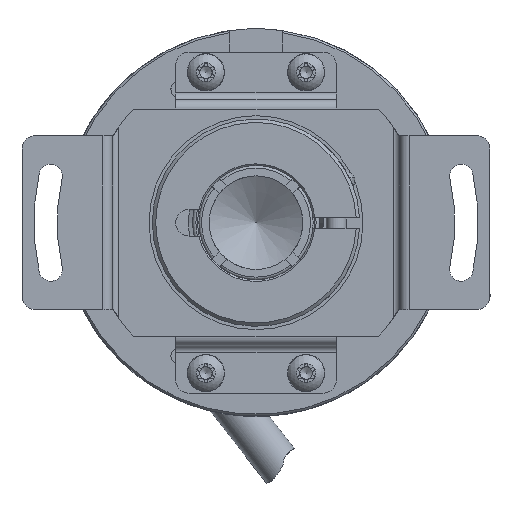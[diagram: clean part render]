
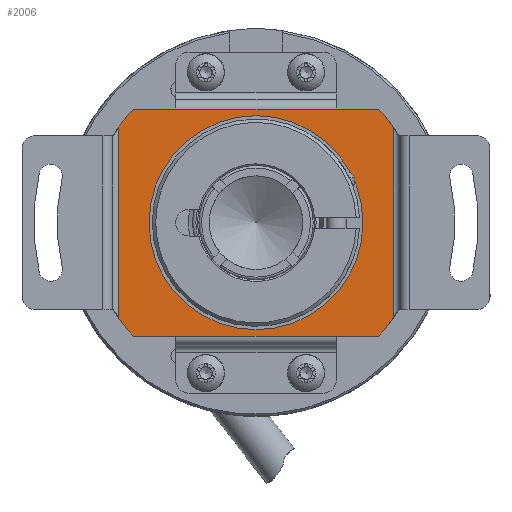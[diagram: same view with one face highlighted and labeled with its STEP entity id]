
A CAD part, left-side view. The second image highlights one B-rep face of the part: STEP entity #2006.
In plain terms, the highlighted planar face has unit normal (-1, 0, 0).
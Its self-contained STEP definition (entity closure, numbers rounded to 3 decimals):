
#2006 = ADVANCED_FACE( '', ( #4288, #4289 ), #4290, .F. );
#4288 = FACE_OUTER_BOUND( '', #32326, .T. );
#4289 = FACE_BOUND( '', #32327, .T. );
#4290 = PLANE( '', #32328 );
#32326 = EDGE_LOOP( '', ( #43182, #43183, #43184, #43185, #43186, #43187, #43188, #43189, #43190, #43191, #43192, #43193 ) );
#32327 = EDGE_LOOP( '', ( #43194 ) );
#32328 = AXIS2_PLACEMENT_3D( '', #43195, #43196, #43197 );
#43182 = ORIENTED_EDGE( '', *, *, #45977, .F. );
#43183 = ORIENTED_EDGE( '', *, *, #45730, .F. );
#43184 = ORIENTED_EDGE( '', *, *, #45679, .F. );
#43185 = ORIENTED_EDGE( '', *, *, #45803, .F. );
#43186 = ORIENTED_EDGE( '', *, *, #45366, .F. );
#43187 = ORIENTED_EDGE( '', *, *, #46525, .F. );
#43188 = ORIENTED_EDGE( '', *, *, #45833, .F. );
#43189 = ORIENTED_EDGE( '', *, *, #45422, .F. );
#43190 = ORIENTED_EDGE( '', *, *, #44458, .F. );
#43191 = ORIENTED_EDGE( '', *, *, #46373, .F. );
#43192 = ORIENTED_EDGE( '', *, *, #45308, .F. );
#43193 = ORIENTED_EDGE( '', *, *, #45638, .F. );
#43194 = ORIENTED_EDGE( '', *, *, #45651, .F. );
#43195 = CARTESIAN_POINT( '', ( 9.6, 0., 17. ) );
#43196 = DIRECTION( '', ( 1., 0., 0. ) );
#43197 = DIRECTION( '', ( 0., 0., 1. ) );
#44458 = EDGE_CURVE( '', #46976, #46979, #46980, .T. );
#45308 = EDGE_CURVE( '', #48386, #48333, #48388, .T. );
#45366 = EDGE_CURVE( '', #48477, #48473, #48479, .T. );
#45422 = EDGE_CURVE( '', #46979, #48558, #48559, .T. );
#45638 = EDGE_CURVE( '', #48888, #48386, #48890, .T. );
#45651 = EDGE_CURVE( '', #48903, #48903, #48904, .T. );
#45679 = EDGE_CURVE( '', #48635, #48938, #48939, .T. );
#45730 = EDGE_CURVE( '', #48938, #49015, #49016, .T. );
#45803 = EDGE_CURVE( '', #48473, #48635, #49117, .T. );
#45833 = EDGE_CURVE( '', #48558, #49155, #49159, .T. );
#45977 = EDGE_CURVE( '', #49015, #48888, #49346, .T. );
#46373 = EDGE_CURVE( '', #48333, #46976, #49828, .T. );
#46525 = EDGE_CURVE( '', #49155, #48477, #49992, .T. );
#46976 = VERTEX_POINT( '', #50693 );
#46979 = VERTEX_POINT( '', #50697 );
#46980 = LINE( '', #50698, #50699 );
#48333 = VERTEX_POINT( '', #55789 );
#48386 = VERTEX_POINT( '', #55969 );
#48388 = LINE( '', #55972, #55973 );
#48473 = VERTEX_POINT( '', #56301 );
#48477 = VERTEX_POINT( '', #56307 );
#48479 = LINE( '', #56310, #56311 );
#48558 = VERTEX_POINT( '', #56518 );
#48559 = CIRCLE( '', #56519, 25. );
#48635 = VERTEX_POINT( '', #56663 );
#48888 = VERTEX_POINT( '', #57434 );
#48890 = CIRCLE( '', #57445, 25. );
#48903 = VERTEX_POINT( '', #57493 );
#48904 = CIRCLE( '', #57494, 16. );
#48938 = VERTEX_POINT( '', #57546 );
#48939 = LINE( '', #57547, #57548 );
#49015 = VERTEX_POINT( '', #57801 );
#49016 = CIRCLE( '', #57802, 25. );
#49117 = LINE( '', #58103, #58104 );
#49155 = VERTEX_POINT( '', #58236 );
#49159 = LINE( '', #58253, #58254 );
#49346 = LINE( '', #58775, #58776 );
#49828 = LINE( '', #60349, #60350 );
#49992 = CIRCLE( '', #60838, 25. );
#50693 = CARTESIAN_POINT( '', ( 9.6, 12., -17. ) );
#50697 = CARTESIAN_POINT( '', ( 9.6, 18.33, -17. ) );
#50698 = CARTESIAN_POINT( '', ( 9.6, -18.33, -17. ) );
#50699 = VECTOR( '', #61531, 1000. );
#55789 = CARTESIAN_POINT( '', ( 9.6, -12., -17. ) );
#55969 = CARTESIAN_POINT( '', ( 9.6, -18.33, -17. ) );
#55972 = CARTESIAN_POINT( '', ( 9.6, -18.33, -17. ) );
#55973 = VECTOR( '', #62593, 1000. );
#56301 = CARTESIAN_POINT( '', ( 9.6, 12., 17. ) );
#56307 = CARTESIAN_POINT( '', ( 9.6, 18.33, 17. ) );
#56310 = CARTESIAN_POINT( '', ( 9.6, 18.33, 17. ) );
#56311 = VECTOR( '', #62663, 1000. );
#56518 = CARTESIAN_POINT( '', ( 9.6, 20.5, -14.309 ) );
#56519 = AXIS2_PLACEMENT_3D( '', #62728, #62729, #62730 );
#56663 = CARTESIAN_POINT( '', ( 9.6, -12., 17. ) );
#57434 = CARTESIAN_POINT( '', ( 9.6, -20.5, -14.309 ) );
#57445 = AXIS2_PLACEMENT_3D( '', #62996, #62997, #62998 );
#57493 = CARTESIAN_POINT( '', ( 9.6, 16., 0. ) );
#57494 = AXIS2_PLACEMENT_3D( '', #63014, #63015, #63016 );
#57546 = CARTESIAN_POINT( '', ( 9.6, -18.33, 17. ) );
#57547 = CARTESIAN_POINT( '', ( 9.6, 18.33, 17. ) );
#57548 = VECTOR( '', #63049, 1000. );
#57801 = CARTESIAN_POINT( '', ( 9.6, -20.5, 14.309 ) );
#57802 = AXIS2_PLACEMENT_3D( '', #63103, #63104, #63105 );
#58103 = CARTESIAN_POINT( '', ( 9.6, 0., 17. ) );
#58104 = VECTOR( '', #63173, 1000. );
#58236 = CARTESIAN_POINT( '', ( 9.6, 20.5, 14.309 ) );
#58253 = CARTESIAN_POINT( '', ( 9.6, 20.5, 8.5 ) );
#58254 = VECTOR( '', #63209, 1000. );
#58775 = CARTESIAN_POINT( '', ( 9.6, -20.5, 8.5 ) );
#58776 = VECTOR( '', #63341, 1000. );
#60349 = CARTESIAN_POINT( '', ( 9.6, 0., -17. ) );
#60350 = VECTOR( '', #63741, 1000. );
#60838 = AXIS2_PLACEMENT_3D( '', #63856, #63857, #63858 );
#61531 = DIRECTION( '', ( 0., 1., 0. ) );
#62593 = DIRECTION( '', ( 0., 1., 0. ) );
#62663 = DIRECTION( '', ( 0., -1., 0. ) );
#62728 = CARTESIAN_POINT( '', ( 9.6, 0., 0. ) );
#62729 = DIRECTION( '', ( 1., 0., 0. ) );
#62730 = DIRECTION( '', ( 0., 1., 0. ) );
#62996 = CARTESIAN_POINT( '', ( 9.6, 0., 0. ) );
#62997 = DIRECTION( '', ( 1., 0., 0. ) );
#62998 = DIRECTION( '', ( 0., 1., 0. ) );
#63014 = CARTESIAN_POINT( '', ( 9.6, 0., 0. ) );
#63015 = DIRECTION( '', ( -1., 0., 0. ) );
#63016 = DIRECTION( '', ( 0., 1., 0. ) );
#63049 = DIRECTION( '', ( 0., -1., 0. ) );
#63103 = CARTESIAN_POINT( '', ( 9.6, 0., 0. ) );
#63104 = DIRECTION( '', ( 1., 0., 0. ) );
#63105 = DIRECTION( '', ( 0., 1., 0. ) );
#63173 = DIRECTION( '', ( 0., -1., 0. ) );
#63209 = DIRECTION( '', ( 0., 0., 1. ) );
#63341 = DIRECTION( '', ( 0., 0., -1. ) );
#63741 = DIRECTION( '', ( 0., 1., 0. ) );
#63856 = CARTESIAN_POINT( '', ( 9.6, 0., 0. ) );
#63857 = DIRECTION( '', ( 1., 0., 0. ) );
#63858 = DIRECTION( '', ( 0., 1., 0. ) );
